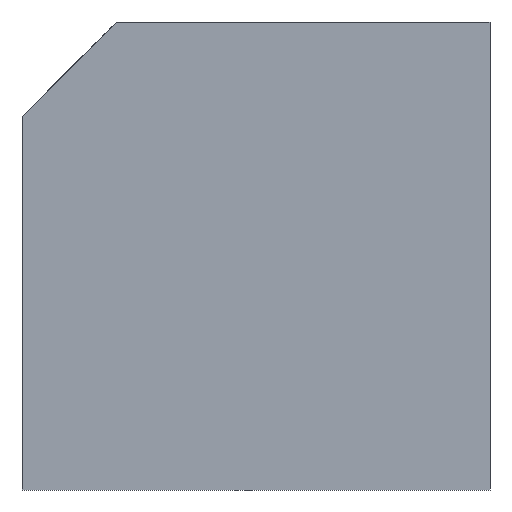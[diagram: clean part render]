
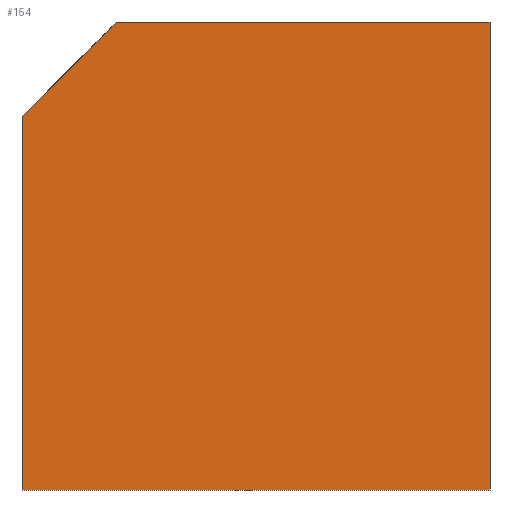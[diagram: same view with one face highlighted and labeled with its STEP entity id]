
A CAD part, front view. The second image highlights one B-rep face of the part: STEP entity #154.
In plain terms, the highlighted planar face has unit normal (0, -1, 0).
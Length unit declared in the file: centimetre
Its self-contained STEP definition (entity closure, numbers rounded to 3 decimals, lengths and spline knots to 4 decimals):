
#15 = DIRECTION ( 'NONE',  ( -0.707, 0., -0.707 ) ) ;
#19 = CARTESIAN_POINT ( 'NONE',  ( 0., 0., 0. ) ) ;
#31 = ORIENTED_EDGE ( 'NONE', *, *, #159, .T. ) ;
#53 = CARTESIAN_POINT ( 'NONE',  ( 0., 0., 1000. ) ) ;
#55 = PLANE ( 'NONE',  #118 ) ;
#59 = ORIENTED_EDGE ( 'NONE', *, *, #246, .F. ) ;
#63 = ORIENTED_EDGE ( 'NONE', *, *, #150, .F. ) ;
#70 = CARTESIAN_POINT ( 'NONE',  ( 201.9598, 0., 1000. ) ) ;
#75 = LINE ( 'NONE', #19, #213 ) ;
#76 = CARTESIAN_POINT ( 'NONE',  ( 0., 0., 798.0402 ) ) ;
#77 = LINE ( 'NONE', #53, #181 ) ;
#83 = LINE ( 'NONE', #182, #212 ) ;
#105 = LINE ( 'NONE', #351, #222 ) ;
#106 = LINE ( 'NONE', #144, #295 ) ;
#116 = VERTEX_POINT ( 'NONE', #386 ) ;
#118 = AXIS2_PLACEMENT_3D ( 'NONE', #352, #383, #174 ) ;
#124 = EDGE_CURVE ( 'NONE', #306, #274, #83, .T. ) ;
#144 = CARTESIAN_POINT ( 'NONE',  ( 1000., 0., 1000. ) ) ;
#150 = EDGE_CURVE ( 'NONE', #116, #253, #106, .T. ) ;
#154 = ADVANCED_FACE ( 'NONE', ( #233 ), #55, .F. ) ;
#159 = EDGE_CURVE ( 'NONE', #274, #253, #75, .T. ) ;
#174 = DIRECTION ( 'NONE',  ( 0., 0., 1. ) ) ;
#177 = DIRECTION ( 'NONE',  ( 1., 0., 0. ) ) ;
#181 = VECTOR ( 'NONE', #177, 100. ) ;
#182 = CARTESIAN_POINT ( 'NONE',  ( 0., 0., 1000. ) ) ;
#212 = VECTOR ( 'NONE', #303, 100. ) ;
#213 = VECTOR ( 'NONE', #322, 100. ) ;
#222 = VECTOR ( 'NONE', #15, 100. ) ;
#233 = FACE_OUTER_BOUND ( 'NONE', #247, .T. ) ;
#246 = EDGE_CURVE ( 'NONE', #367, #116, #77, .T. ) ;
#247 = EDGE_LOOP ( 'NONE', ( #59, #336, #278, #31, #63 ) ) ;
#253 = VERTEX_POINT ( 'NONE', #298 ) ;
#256 = CARTESIAN_POINT ( 'NONE',  ( 0., 0., 0. ) ) ;
#267 = DIRECTION ( 'NONE',  ( 0., 0., -1. ) ) ;
#274 = VERTEX_POINT ( 'NONE', #256 ) ;
#278 = ORIENTED_EDGE ( 'NONE', *, *, #124, .T. ) ;
#295 = VECTOR ( 'NONE', #267, 100. ) ;
#298 = CARTESIAN_POINT ( 'NONE',  ( 1000., 0., 0. ) ) ;
#303 = DIRECTION ( 'NONE',  ( 0., 0., -1. ) ) ;
#306 = VERTEX_POINT ( 'NONE', #76 ) ;
#322 = DIRECTION ( 'NONE',  ( 1., 0., 0. ) ) ;
#336 = ORIENTED_EDGE ( 'NONE', *, *, #342, .T. ) ;
#342 = EDGE_CURVE ( 'NONE', #367, #306, #105, .T. ) ;
#351 = CARTESIAN_POINT ( 'NONE',  ( 201.9598, 0., 1000. ) ) ;
#352 = CARTESIAN_POINT ( 'NONE',  ( 0., 0., 1000. ) ) ;
#367 = VERTEX_POINT ( 'NONE', #70 ) ;
#383 = DIRECTION ( 'NONE',  ( 0., 1., 0. ) ) ;
#386 = CARTESIAN_POINT ( 'NONE',  ( 1000., 0., 1000. ) ) ;
